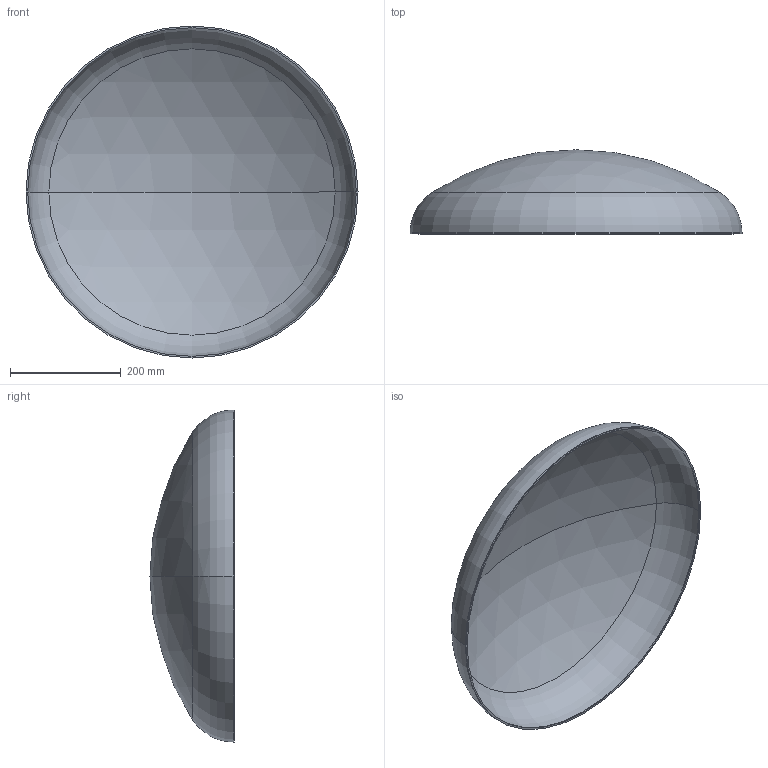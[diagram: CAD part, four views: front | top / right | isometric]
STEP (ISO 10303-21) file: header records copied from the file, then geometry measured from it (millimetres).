
FILE_DESCRIPTION (( 'STEP AP203' ), '1' );
FILE_NAME ('3D_R365_600x3_173374540.STEP', '2024-07-16T07:30:58', ( '' ), ( '' ), 'SwSTEP 2.0', 'SolidWorks 2024', '' );
FILE_SCHEMA (( 'CONFIG_CONTROL_DESIGN' ));
Length unit declared in the file: millimetre
Products named in the file (1): 3D_R365_600x3_173374540
Bounding box: 600 x 152 x 600 mm (x, y, z)
Volume: 1157646.3 mm3; surface area: 777409.3 mm2
Topology: 1 solids, 1 shells, 13 faces, 24 edges, 14 vertices
Faces by surface type: sphere 4, torus 4, cylinder 4, plane 1
Entity records: 407 total; most frequent: DIRECTION 72, CARTESIAN_POINT 52, ORIENTED_EDGE 48, AXIS2_PLACEMENT_3D 34, EDGE_CURVE 24, CIRCLE 20, VERTEX_POINT 14, EDGE_LOOP 14
